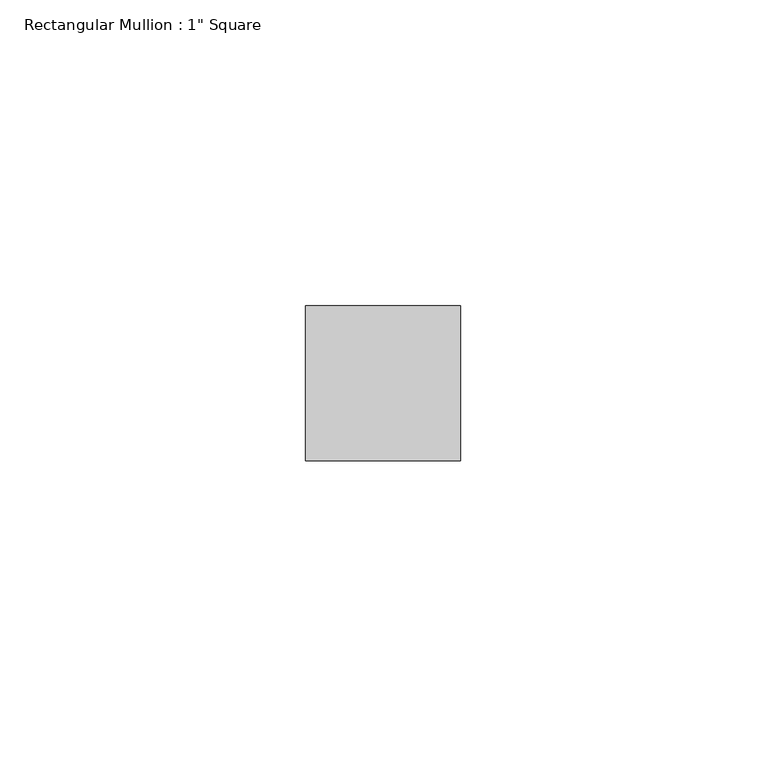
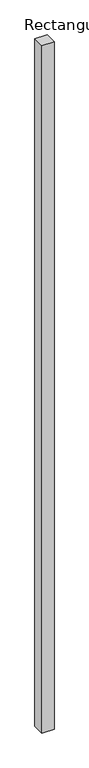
"""IFC4 building model written with IfcOpenShell, lengths in millimetres: member geometry."""

from ifc_helpers import new_model, si_unit, frame, origin, place, context, project, spatial, polyline, outline, extrude, source, transform, mapped, element, save


def member_c267af09(model_context):
    return source(origin(), model_context, "Body", "SweptSolid", [
        extrude(outline(polyline([(12.7, 12.7), (12.7, -12.7), (-12.7, -12.7), (-12.7, 12.7), (12.7, 12.7)])), frame((0.0, 0.0, -1524.5888065), z_axis=(0.0, 0.0, 1.0), x_axis=(1.0, 0.0, 0.0)), (0.0, 0.0, 1.0), 1524.5888065),
    ])


if __name__ == "__main__":
    model = new_model("IFC4")
    model_context = context("Model", 3, world=origin())
    ifc_project = project(units=[si_unit("LENGTHUNIT", "METRE", prefix="MILLI")], contexts=[model_context])
    site = spatial("IfcSite", under=ifc_project)
    building = spatial("IfcBuilding", under=site)
    placement = place(None, origin())
    member_shape = member_c267af09(model_context)
    element("IfcMember", 1, ObjectType="Rectangular Mullion : 1\" Square", at=placement, inside=building, context=model_context, shape_type="MappedRepresentation", body=[
        mapped(member_shape, transform((0.0, 0.0, 0.0), x_axis=(1.0, 0.0, 0.0), y_axis=(0.0, 1.0, 0.0), z_axis=(0.0, 0.0, 1.0))),
    ])
    save(model, "model.ifc")
